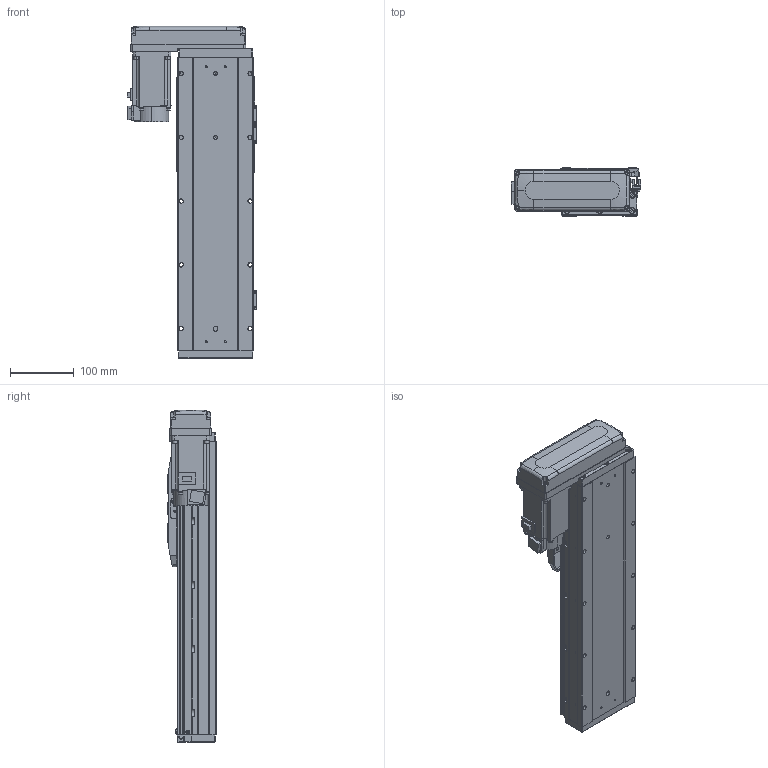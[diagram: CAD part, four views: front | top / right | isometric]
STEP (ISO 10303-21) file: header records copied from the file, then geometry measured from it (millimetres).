
FILE_DESCRIPTION (( 'STEP AP203' ), '1' );
FILE_NAME ('GTH12-250-BR-M40-C4.step', '2025-07-16T03:44:02', ( '' ), ( '' ), 'SwSTEP 2.0', 'SolidWorks 2023', '' );
FILE_SCHEMA (( 'CONFIG_CONTROL_DESIGN' ));
Length unit declared in the file: millimetre
Products named in the file (18): GTH50-024; GBT 70.1-M3×6; GTH120-027-1_GTH120-027-2; GTH80-028; GTH120-003; BTH-M3X5X6; GBT 70.3-M3×8; CTHA86-033_M40B; GTH50-023; GTH120-006; GTH80-022; GTH120-001_250; GBT 70.1-M5×16; hg-kn43j_-s100_; GTH120-004; GTH120-013; GTH12-250-BR-M40-C4; GBT96.1-2002 3×0.8
Assembly tree (59 placements, depth 2):
  GTH12-250-BR-M40-C4
    GTH120-001_250
    GTH120-003
    GTH120-006
    GTH120-004
    GTH120-013
    GBT 70.1-M3×6  x14
    GBT 70.1-M5×16  x10
    GBT 70.3-M3×8  x4
    GTH80-022
    GTH80-028  x2
    GTH50-023  x3
    GTH50-024  x3
    GBT96.1-2002 3×0.8  x6
    BTH-M3X5X6  x8
    hg-kn43j_-s100_
    CTHA86-033_M40B
    GTH120-027-1_GTH120-027-2
Bounding box: 203.5 x 76 x 520.5 mm (x, y, z)
Volume: 4247644.2 mm3; surface area: 466315.7 mm2
Topology: 61 solids, 61 shells, 2361 faces, 5478 edges, 3359 vertices
Faces by surface type: plane 1232, cylinder 665, cone 276, torus 174, sphere 8, bspline 6
Entity records: 43012 total; most frequent: CARTESIAN_POINT 7284, DIRECTION 7078, ORIENTED_EDGE 6566, EDGE_CURVE 3283, AXIS2_PLACEMENT_3D 2474, LINE 2130, VECTOR 2130, VERTEX_POINT 2080
